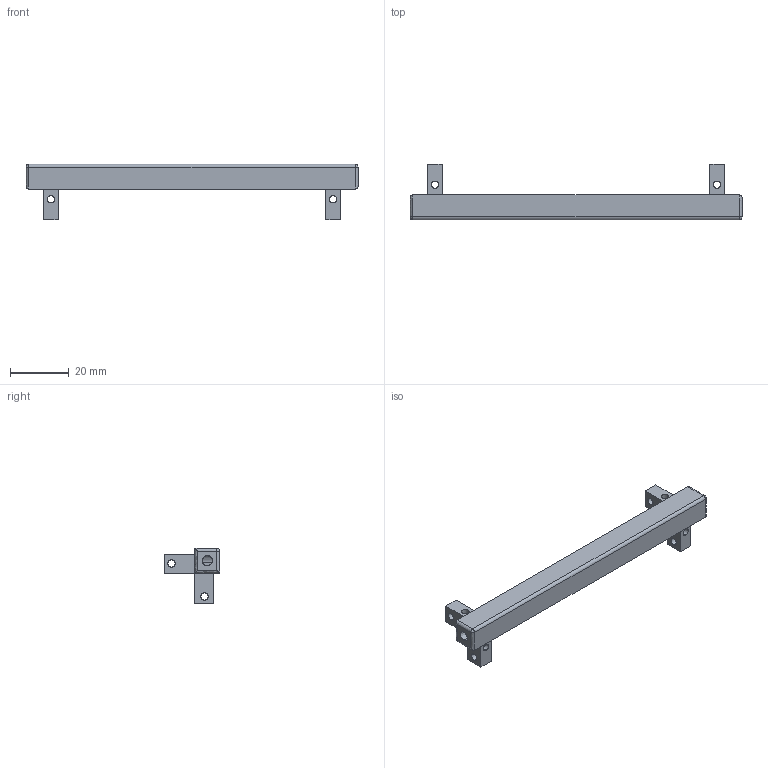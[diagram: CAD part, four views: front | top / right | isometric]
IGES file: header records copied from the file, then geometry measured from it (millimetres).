
Start section: SolidWorks IGES file using analytic representation for surfaces
Global section: file name: C:\Users\OSSI\Desktop\OSSIStructureNew\3dCNC\IGES\Frame.IGS; native system: SolidWorks 2011; preprocessor: SolidWorks 2011; author: OSSI; date: 120522.043847; units: millimetre
Bounding box: 113.5 x 19 x 19 mm (x, y, z)
Surface area: 5344.8 mm2 (no closed solid volume)
Topology: 0 solids, 0 shells, 59 faces, 932 edges, 930 vertices
Faces by surface type: revolution 33, bspline 26
